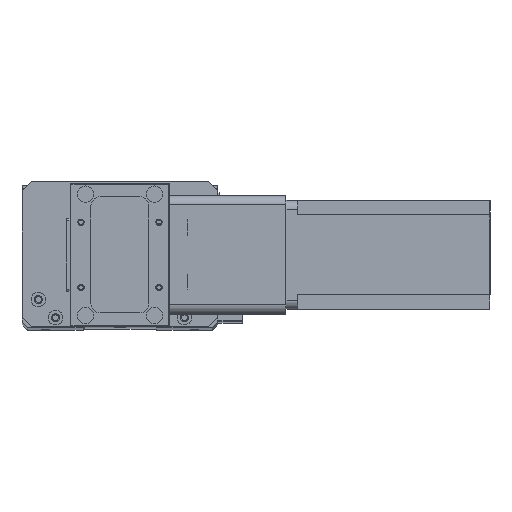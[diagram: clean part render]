
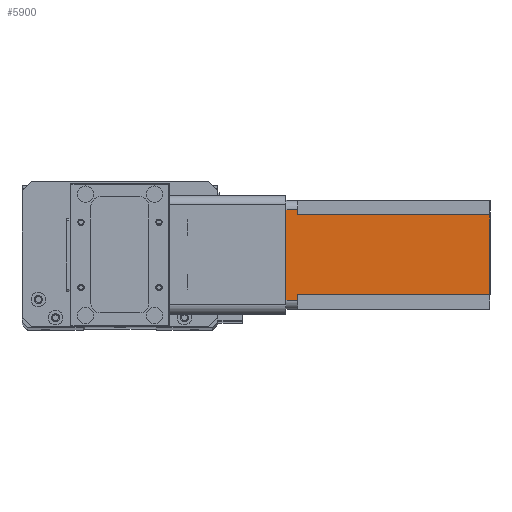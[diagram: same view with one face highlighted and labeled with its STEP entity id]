
A CAD part, top view. The second image highlights one B-rep face of the part: STEP entity #5900.
In plain terms, the highlighted planar face has unit normal (0, 0, 1) as drawn and (0, 1, 0) by its records, which use the part's own axes.
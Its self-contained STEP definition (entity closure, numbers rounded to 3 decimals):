
#2 = ORIENTED_EDGE ( 'NONE', *, *, #7516, .F. ) ;
#170 = DIRECTION ( 'NONE',  ( 0., 0., 1. ) ) ;
#279 = VERTEX_POINT ( 'NONE', #3418 ) ;
#420 = CARTESIAN_POINT ( 'NONE',  ( 52., 60., -6.5 ) ) ;
#543 = EDGE_CURVE ( 'NONE', #26064, #19665, #20767, .T. ) ;
#560 = VECTOR ( 'NONE', #8265, 1000. ) ;
#1587 = LINE ( 'NONE', #1889, #22802 ) ;
#1685 = ORIENTED_EDGE ( 'NONE', *, *, #7764, .T. ) ;
#1889 = CARTESIAN_POINT ( 'NONE',  ( 0., 60., -112.5 ) ) ;
#2102 = VECTOR ( 'NONE', #6314, 1000. ) ;
#2495 = DIRECTION ( 'NONE',  ( 1., 0., 0. ) ) ;
#3314 = LINE ( 'NONE', #9457, #9413 ) ;
#3418 = CARTESIAN_POINT ( 'NONE',  ( 8., 60., -6.5 ) ) ;
#3751 = DIRECTION ( 'NONE',  ( -1., 0., 0. ) ) ;
#4161 = CARTESIAN_POINT ( 'NONE',  ( 8., 60., -6.5 ) ) ;
#4269 = CARTESIAN_POINT ( 'NONE',  ( 52., 60., -112.5 ) ) ;
#4389 = ORIENTED_EDGE ( 'NONE', *, *, #543, .F. ) ;
#4666 = EDGE_CURVE ( 'NONE', #24549, #5200, #15344, .T. ) ;
#5200 = VERTEX_POINT ( 'NONE', #18492 ) ;
#5726 = ORIENTED_EDGE ( 'NONE', *, *, #13138, .F. ) ;
#5900 = ADVANCED_FACE ( 'NONE', ( #15586 ), #24715, .T. ) ;
#6314 = DIRECTION ( 'NONE',  ( 0., 0., 1. ) ) ;
#6781 = CARTESIAN_POINT ( 'NONE',  ( 55., 60., 0. ) ) ;
#7516 = EDGE_CURVE ( 'NONE', #279, #9128, #3314, .T. ) ;
#7764 = EDGE_CURVE ( 'NONE', #15015, #19665, #7792, .T. ) ;
#7792 = LINE ( 'NONE', #12397, #11954 ) ;
#8265 = DIRECTION ( 'NONE',  ( -1., 0., 0. ) ) ;
#8287 = LINE ( 'NONE', #9938, #13117 ) ;
#8550 = DIRECTION ( 'NONE',  ( 0., 0., 1. ) ) ;
#9128 = VERTEX_POINT ( 'NONE', #17932 ) ;
#9252 = VECTOR ( 'NONE', #8550, 1000. ) ;
#9413 = VECTOR ( 'NONE', #17554, 1000. ) ;
#9457 = CARTESIAN_POINT ( 'NONE',  ( 8., 60., -112.5 ) ) ;
#9938 = CARTESIAN_POINT ( 'NONE',  ( 0., 60., 0. ) ) ;
#9969 = AXIS2_PLACEMENT_3D ( 'NONE', #10432, #12479, #170 ) ;
#10076 = DIRECTION ( 'NONE',  ( -1., 0., 0. ) ) ;
#10345 = DIRECTION ( 'NONE',  ( 0., 0., -1. ) ) ;
#10432 = CARTESIAN_POINT ( 'NONE',  ( 0., 60., -112.5 ) ) ;
#11954 = VECTOR ( 'NONE', #10345, 1000. ) ;
#11980 = EDGE_LOOP ( 'NONE', ( #15549, #1685, #4389, #5726, #12264, #2, #17249, #14776 ) ) ;
#12137 = LINE ( 'NONE', #4161, #560 ) ;
#12264 = ORIENTED_EDGE ( 'NONE', *, *, #20210, .T. ) ;
#12397 = CARTESIAN_POINT ( 'NONE',  ( 55., 60., -112.5 ) ) ;
#12479 = DIRECTION ( 'NONE',  ( 0., 1., 0. ) ) ;
#13117 = VECTOR ( 'NONE', #3751, 1000. ) ;
#13138 = EDGE_CURVE ( 'NONE', #24658, #26064, #18508, .T. ) ;
#13416 = CARTESIAN_POINT ( 'NONE',  ( 55., 60., -6.5 ) ) ;
#14635 = CARTESIAN_POINT ( 'NONE',  ( 52., 60., -6.5 ) ) ;
#14776 = ORIENTED_EDGE ( 'NONE', *, *, #4666, .T. ) ;
#15015 = VERTEX_POINT ( 'NONE', #6781 ) ;
#15344 = LINE ( 'NONE', #22916, #9252 ) ;
#15549 = ORIENTED_EDGE ( 'NONE', *, *, #17712, .F. ) ;
#15586 = FACE_OUTER_BOUND ( 'NONE', #11980, .T. ) ;
#17249 = ORIENTED_EDGE ( 'NONE', *, *, #18727, .T. ) ;
#17554 = DIRECTION ( 'NONE',  ( 0., 0., -1. ) ) ;
#17712 = EDGE_CURVE ( 'NONE', #15015, #5200, #8287, .T. ) ;
#17932 = CARTESIAN_POINT ( 'NONE',  ( 8., 60., -112.5 ) ) ;
#18492 = CARTESIAN_POINT ( 'NONE',  ( 5., 60., 0. ) ) ;
#18508 = LINE ( 'NONE', #4269, #2102 ) ;
#18727 = EDGE_CURVE ( 'NONE', #279, #24549, #12137, .T. ) ;
#19481 = VECTOR ( 'NONE', #2495, 1000. ) ;
#19665 = VERTEX_POINT ( 'NONE', #13416 ) ;
#20210 = EDGE_CURVE ( 'NONE', #24658, #9128, #1587, .T. ) ;
#20767 = LINE ( 'NONE', #420, #19481 ) ;
#21576 = CARTESIAN_POINT ( 'NONE',  ( 5., 60., -6.5 ) ) ;
#21933 = CARTESIAN_POINT ( 'NONE',  ( 52., 60., -112.5 ) ) ;
#22802 = VECTOR ( 'NONE', #10076, 1000. ) ;
#22916 = CARTESIAN_POINT ( 'NONE',  ( 5., 60., -112.5 ) ) ;
#24549 = VERTEX_POINT ( 'NONE', #21576 ) ;
#24658 = VERTEX_POINT ( 'NONE', #21933 ) ;
#24715 = PLANE ( 'NONE',  #9969 ) ;
#26064 = VERTEX_POINT ( 'NONE', #14635 ) ;
